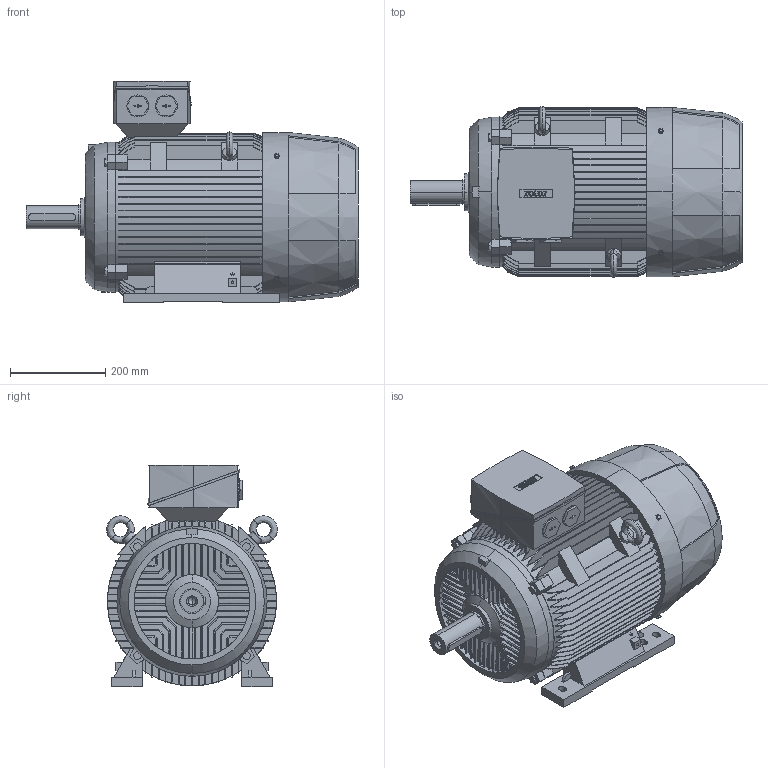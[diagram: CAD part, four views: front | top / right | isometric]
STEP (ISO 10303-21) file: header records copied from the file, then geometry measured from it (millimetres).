
FILE_DESCRIPTION (( 'STEP AP203' ), '1' );
FILE_NAME ('6RN180L06E16 IM1041.STEP', '2017-01-18T09:48:42', ( 'rotor' ), ( 'Hewlett-Packard Company' ), 'SwSTEP 2.0', 'SolidWorks 2015', '' );
FILE_SCHEMA (( 'CONFIG_CONTROL_DESIGN' ));
Length unit declared in the file: millimetre
Products named in the file (1): 6RN180L06E16 IM1041
Bounding box: 698 x 358.44 x 466 mm (x, y, z)
Volume: 52406838.5 mm3; surface area: 1876198.1 mm2
Topology: 1 solids, 1 shells, 1346 faces, 3810 edges, 2511 vertices
Faces by surface type: plane 819, cylinder 269, bspline 227, cone 31
Entity records: 51960 total; most frequent: CARTESIAN_POINT 19593, ORIENTED_EDGE 7616, DIRECTION 5575, EDGE_CURVE 3808, VERTEX_POINT 2511, LINE 2025, VECTOR 2025, AXIS2_PLACEMENT_3D 1775
